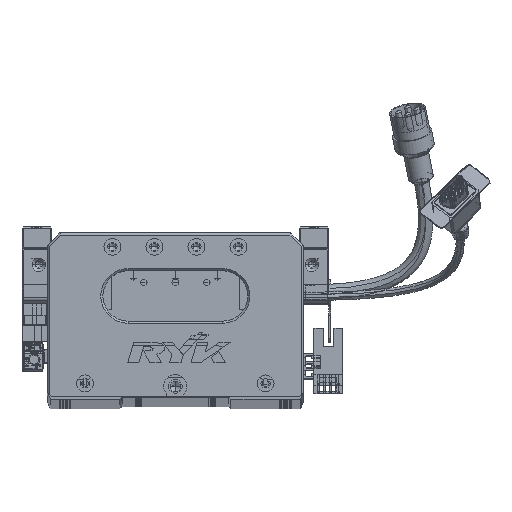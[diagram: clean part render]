
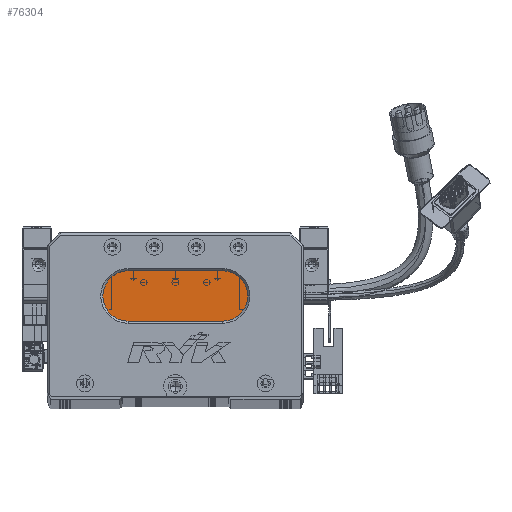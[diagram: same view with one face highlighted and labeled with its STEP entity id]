
A CAD part, top view. The second image highlights one B-rep face of the part: STEP entity #76304.
In plain terms, the highlighted planar face has unit normal (0, 0, 1) as drawn and (0, 0, -1) by its records, which use the part's own axes.
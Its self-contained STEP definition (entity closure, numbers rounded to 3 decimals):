
#350 = PLANE ( 'NONE',  #5524 ) ;
#3401 = ORIENTED_EDGE ( 'NONE', *, *, #87440, .T. ) ;
#4363 = EDGE_CURVE ( 'NONE', #50273, #105045, #96121, .T. ) ;
#5524 = AXIS2_PLACEMENT_3D ( 'NONE', #106798, #88845, #108046 ) ;
#12673 = FACE_OUTER_BOUND ( 'NONE', #73205, .T. ) ;
#17120 = DIRECTION ( 'NONE',  ( -1., 0., 0. ) ) ;
#21789 = AXIS2_PLACEMENT_3D ( 'NONE', #55440, #46979, #17120 ) ;
#22492 = ORIENTED_EDGE ( 'NONE', *, *, #24494, .T. ) ;
#23213 = VECTOR ( 'NONE', #100180, 1000. ) ;
#24043 = VERTEX_POINT ( 'NONE', #48955 ) ;
#24494 = EDGE_CURVE ( 'NONE', #82441, #24043, #51470, .T. ) ;
#26290 = DIRECTION ( 'NONE',  ( 0., 0., -1. ) ) ;
#27885 = ORIENTED_EDGE ( 'NONE', *, *, #4363, .T. ) ;
#29790 = DIRECTION ( 'NONE',  ( 1., 0., 0. ) ) ;
#45555 = CARTESIAN_POINT ( 'NONE',  ( 38.5, 36., 13. ) ) ;
#46318 = DIRECTION ( 'NONE',  ( -1., 0., 0. ) ) ;
#46979 = DIRECTION ( 'NONE',  ( 0., 0., -1. ) ) ;
#48955 = CARTESIAN_POINT ( 'NONE',  ( 83.5, 36., 13. ) ) ;
#49366 = CARTESIAN_POINT ( 'NONE',  ( 83.5, 60., 13. ) ) ;
#49600 = CIRCLE ( 'NONE', #87642, 12. ) ;
#49904 = VECTOR ( 'NONE', #29790, 1000. ) ;
#50273 = VERTEX_POINT ( 'NONE', #45555 ) ;
#51138 = EDGE_CURVE ( 'NONE', #24043, #50273, #84156, .T. ) ;
#51470 = CIRCLE ( 'NONE', #118119, 12. ) ;
#54109 = CARTESIAN_POINT ( 'NONE',  ( 83.5, 60., 13. ) ) ;
#55440 = CARTESIAN_POINT ( 'NONE',  ( 38.5, 48., 13. ) ) ;
#64572 = CARTESIAN_POINT ( 'NONE',  ( 38.5, 48., 13. ) ) ;
#66301 = ORIENTED_EDGE ( 'NONE', *, *, #102243, .T. ) ;
#67085 = CARTESIAN_POINT ( 'NONE',  ( 83.5, 48., 13. ) ) ;
#73205 = EDGE_LOOP ( 'NONE', ( #22492, #108480, #27885, #66301, #3401 ) ) ;
#76304 = ADVANCED_FACE ( 'NONE', ( #12673 ), #350, .T. ) ;
#79934 = CARTESIAN_POINT ( 'NONE',  ( 26.5, 48., 13. ) ) ;
#80265 = VERTEX_POINT ( 'NONE', #101237 ) ;
#82441 = VERTEX_POINT ( 'NONE', #54109 ) ;
#83307 = DIRECTION ( 'NONE',  ( 0., 0., -1. ) ) ;
#84156 = LINE ( 'NONE', #90350, #23213 ) ;
#87440 = EDGE_CURVE ( 'NONE', #80265, #82441, #98612, .T. ) ;
#87642 = AXIS2_PLACEMENT_3D ( 'NONE', #64572, #83307, #93953 ) ;
#88845 = DIRECTION ( 'NONE',  ( 0., 0., -1. ) ) ;
#90350 = CARTESIAN_POINT ( 'NONE',  ( 83.5, 36., 13. ) ) ;
#93953 = DIRECTION ( 'NONE',  ( -1., 0., 0. ) ) ;
#96121 = CIRCLE ( 'NONE', #21789, 12. ) ;
#98612 = LINE ( 'NONE', #49366, #49904 ) ;
#100180 = DIRECTION ( 'NONE',  ( -1., 0., 0. ) ) ;
#101237 = CARTESIAN_POINT ( 'NONE',  ( 38.5, 60., 13. ) ) ;
#102243 = EDGE_CURVE ( 'NONE', #105045, #80265, #49600, .T. ) ;
#105045 = VERTEX_POINT ( 'NONE', #79934 ) ;
#106798 = CARTESIAN_POINT ( 'NONE',  ( 83.5, 48., 13. ) ) ;
#108046 = DIRECTION ( 'NONE',  ( -1., 0., 0. ) ) ;
#108480 = ORIENTED_EDGE ( 'NONE', *, *, #51138, .T. ) ;
#118119 = AXIS2_PLACEMENT_3D ( 'NONE', #67085, #26290, #46318 ) ;
